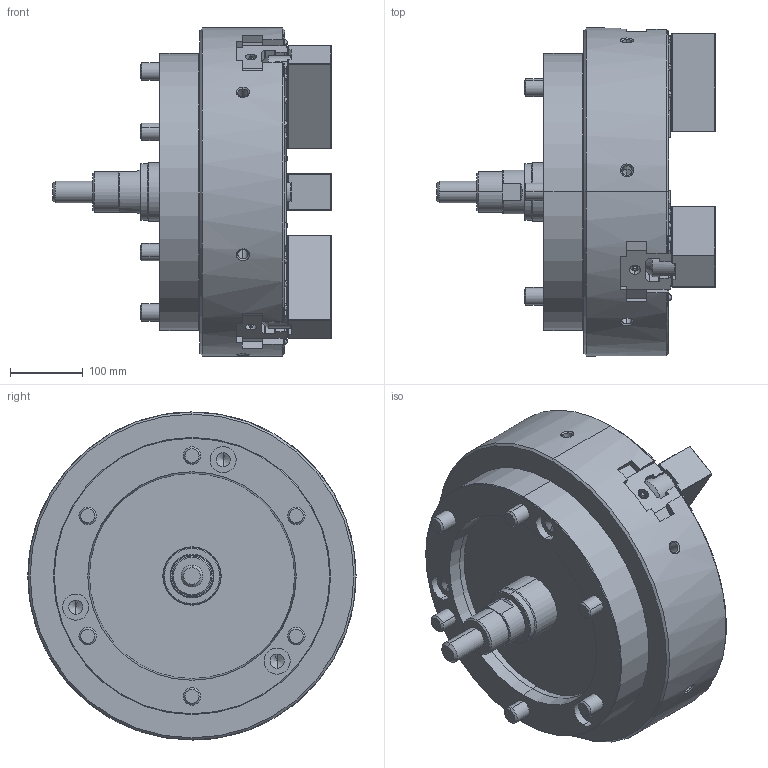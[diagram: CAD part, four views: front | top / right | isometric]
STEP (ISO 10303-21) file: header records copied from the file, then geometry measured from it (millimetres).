
FILE_DESCRIPTION (( 'STEP AP214' ), '1' );
FILE_NAME ('NV18C15_OC.STEP', '2019-12-19T07:18:12', ( '' ), ( '' ), 'SwSTEP 2.0', 'SolidWorks 2017', '' );
FILE_SCHEMA (( 'AUTOMOTIVE_DESIGN' ));
Length unit declared in the file: millimetre
Products named in the file (5): NV18C15_OC; 結合; 0030120055; 61P418536_俿僫僢僩; 61P321128
Assembly tree (16 placements, depth 2):
  NV18C15_OC
    61P321128  x3
    61P418536_俿僫僢僩  x6
    0030120055  x6
    結合
Bounding box: 382.2 x 450 x 450 mm (x, y, z)
Volume: 24364914.3 mm3; surface area: 1023423.3 mm2
Topology: 16 solids, 16 shells, 4562 faces, 12664 edges, 8173 vertices
Faces by surface type: plane 3814, cylinder 348, cone 316, torus 84
Entity records: 101126 total; most frequent: CARTESIAN_POINT 20162, ORIENTED_EDGE 17336, DIRECTION 15796, EDGE_CURVE 8668, VECTOR 7308, LINE 7308, VERTEX_POINT 5606, AXIS2_PLACEMENT_3D 4244
